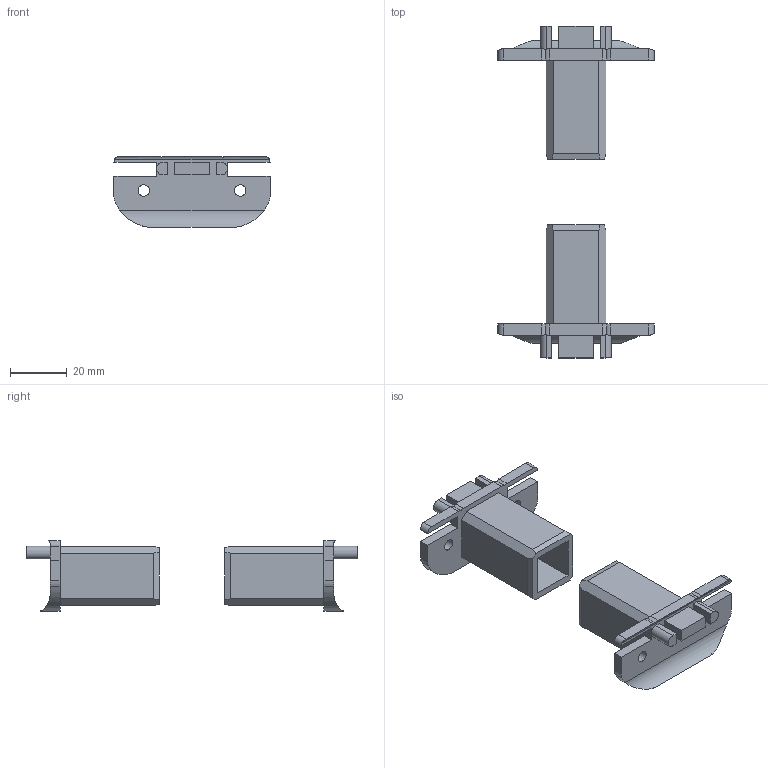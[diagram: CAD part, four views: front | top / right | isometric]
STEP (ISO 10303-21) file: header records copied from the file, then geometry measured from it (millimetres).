
FILE_DESCRIPTION (( 'STEP AP214' ), '1' );
FILE_NAME ('L15843 ENS.step', '2024-12-03T16:22:13', ( '' ), ( '' ), 'SwSTEP 2.0', 'SolidWorks 2023', '' );
FILE_SCHEMA (( 'AUTOMOTIVE_DESIGN' ));
Length unit declared in the file: millimetre
Products named in the file (2): L15843; L15843 ENS
Assembly tree (2 placements, depth 2):
  L15843 ENS
    L15843  x2
Bounding box: 55 x 116.97 x 25 mm (x, y, z)
Volume: 28476.4 mm3; surface area: 16036.3 mm2
Topology: 2 solids, 2 shells, 122 faces, 336 edges, 224 vertices
Faces by surface type: plane 90, cylinder 32
Full cylindrical faces by diameter (mm): 4 x4
Entity records: 2027 total; most frequent: CARTESIAN_POINT 412, ORIENTED_EDGE 328, DIRECTION 314, EDGE_CURVE 164, VECTOR 130, LINE 130, VERTEX_POINT 110, AXIS2_PLACEMENT_3D 92
